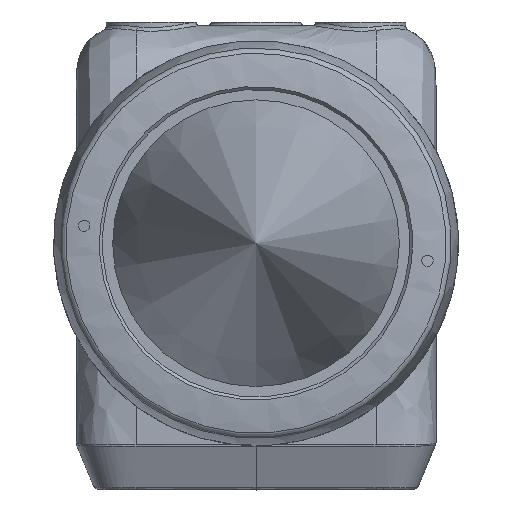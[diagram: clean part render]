
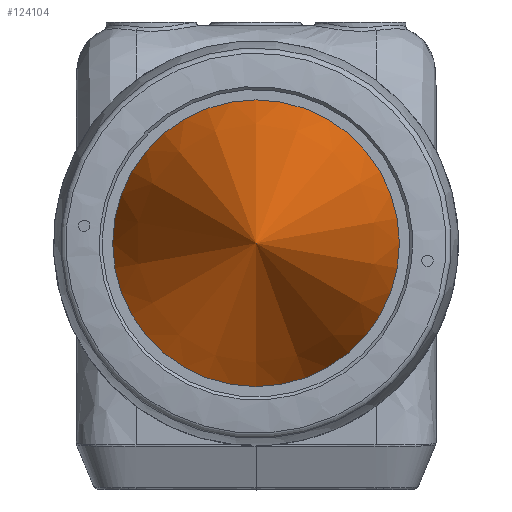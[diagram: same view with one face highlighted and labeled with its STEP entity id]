
A CAD part, front view. The second image highlights one B-rep face of the part: STEP entity #124104.
In plain terms, the highlighted conical face has half-angle 17.671 degrees and reference radius 19.115 mm.
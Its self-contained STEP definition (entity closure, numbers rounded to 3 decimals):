
#23026 = CONICAL_SURFACE ( 'NONE', #136723, 19.115, 0.308 ) ;
#29389 = DIRECTION ( 'NONE',  ( 0., 0., 1. ) ) ;
#55050 = CIRCLE ( 'NONE', #142689, 19.115 ) ;
#65417 = ORIENTED_EDGE ( 'NONE', *, *, #94000, .F. ) ;
#90353 = CARTESIAN_POINT ( 'NONE',  ( 0., 0., 0. ) ) ;
#94000 = EDGE_CURVE ( 'NONE', #180422, #180422, #55050, .T. ) ;
#110126 = EDGE_LOOP ( 'NONE', ( #65417 ) ) ;
#124104 = ADVANCED_FACE ( 'NONE', ( #183191 ), #23026, .T. ) ;
#135144 = DIRECTION ( 'NONE',  ( 0., 0., 1. ) ) ;
#136723 = AXIS2_PLACEMENT_3D ( 'NONE', #167801, #196450, #135144 ) ;
#142689 = AXIS2_PLACEMENT_3D ( 'NONE', #90353, #199477, #29389 ) ;
#167801 = CARTESIAN_POINT ( 'NONE',  ( 0., 0., 0. ) ) ;
#180422 = VERTEX_POINT ( 'NONE', #199785 ) ;
#183191 = FACE_OUTER_BOUND ( 'NONE', #110126, .T. ) ;
#196450 = DIRECTION ( 'NONE',  ( 0., 1., 0. ) ) ;
#199477 = DIRECTION ( 'NONE',  ( 0., 1., 0. ) ) ;
#199785 = CARTESIAN_POINT ( 'NONE',  ( 0., 0., 19.115 ) ) ;
